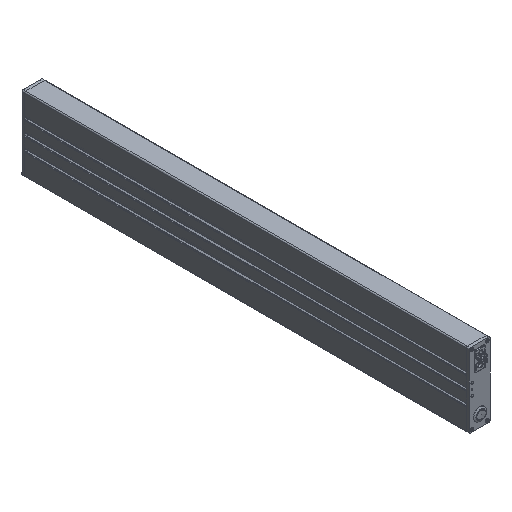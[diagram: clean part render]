
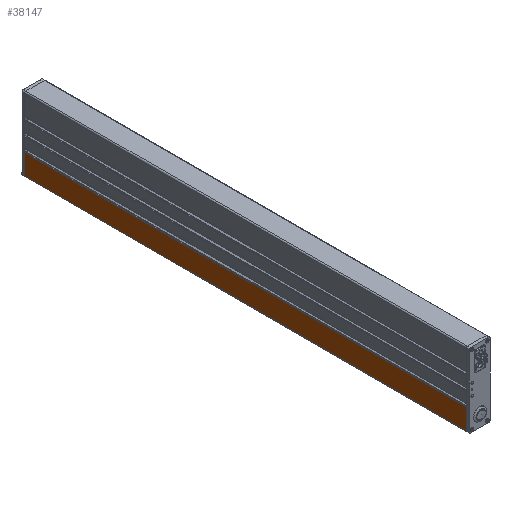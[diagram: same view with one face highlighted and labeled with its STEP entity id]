
A CAD part, isometric view. The second image highlights one B-rep face of the part: STEP entity #38147.
In plain terms, the highlighted planar face has unit normal (-1, 0, 0).
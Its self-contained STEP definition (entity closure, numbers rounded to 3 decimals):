
#3168=FACE_OUTER_BOUND('',#5178,.T.);
#5178=EDGE_LOOP('',(#25890,#25891,#25892,#25893));
#7339=LINE('',#54845,#11430);
#7362=LINE('',#54918,#11453);
#7363=LINE('',#54919,#11454);
#7364=LINE('',#54920,#11455);
#11430=VECTOR('',#43711,10.);
#11453=VECTOR('',#43782,10.);
#11454=VECTOR('',#43783,10.);
#11455=VECTOR('',#43784,10.);
#15522=VERTEX_POINT('',#54841);
#15523=VERTEX_POINT('',#54843);
#15548=VERTEX_POINT('',#54916);
#15549=VERTEX_POINT('',#54917);
#19667=EDGE_CURVE('',#15523,#15522,#7339,.T.);
#19702=EDGE_CURVE('',#15548,#15549,#7362,.T.);
#19703=EDGE_CURVE('',#15522,#15548,#7363,.T.);
#19704=EDGE_CURVE('',#15523,#15549,#7364,.T.);
#25890=ORIENTED_EDGE('',*,*,#19702,.F.);
#25891=ORIENTED_EDGE('',*,*,#19703,.F.);
#25892=ORIENTED_EDGE('',*,*,#19667,.F.);
#25893=ORIENTED_EDGE('',*,*,#19704,.T.);
#37007=PLANE('',#40196);
#38147=ADVANCED_FACE('',(#3168),#37007,.T.);
#40196=AXIS2_PLACEMENT_3D('',#54915,#43780,#43781);
#43711=DIRECTION('',(0.,1.,0.));
#43780=DIRECTION('center_axis',(-1.,0.,0.));
#43781=DIRECTION('ref_axis',(0.,0.,
1.));
#43782=DIRECTION('',(0.,-1.,0.));
#43783=DIRECTION('',(0.,0.,1.));
#43784=DIRECTION('',(0.,0.,1.));
#54841=CARTESIAN_POINT('',(0.,-349.925,2.));
#54843=CARTESIAN_POINT('',(0.,-1155.925,2.));
#54845=CARTESIAN_POINT('',(0.,-1155.925,2.));
#54915=CARTESIAN_POINT('Origin',(0.,-1155.925,
0.));
#54916=CARTESIAN_POINT('',(0.,-349.925,39.45));
#54917=CARTESIAN_POINT('',(0.,-1155.925,39.45));
#54918=CARTESIAN_POINT('',(0.,-1155.925,39.45));
#54919=CARTESIAN_POINT('',(0.,-349.925,0.));
#54920=CARTESIAN_POINT('',(0.,-1155.925,0.));
